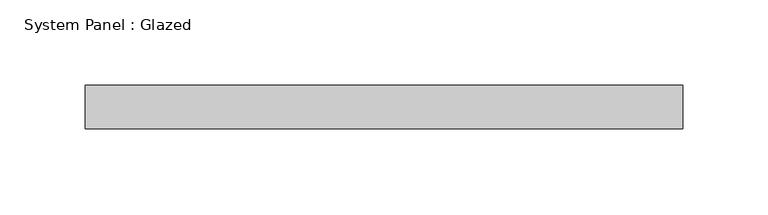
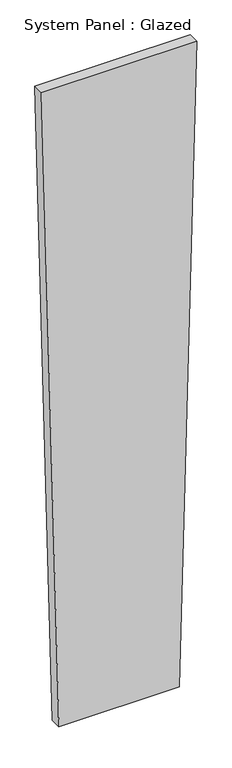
"""IFC4 building model written with IfcOpenShell, lengths in millimetres: plate geometry, System Panel : Glazed."""

from ifc_helpers import new_model, si_unit, frame, origin, place, context, project, spatial, polyline, outline, extrude, source, transform, mapped, element, save


def system_panel_glazed_a686362b(model_context):
    return source(origin(), model_context, "Body", "SweptSolid", [
        extrude(outline(polyline([(0.0, -135.6438304), (0.0, 135.6438304), (1523.4947338, 174.8840644), (1523.4947338, -174.8840644), (0.0, -135.6438304)])), frame((0.0, 19.05, 0.0), z_axis=(0.0, 1.0, 0.0), x_axis=(0.0, 0.0, 1.0)), (0.0, 0.0, 1.0), 25.4),
    ])


if __name__ == "__main__":
    model = new_model("IFC4")
    model_context = context("Model", 3, world=origin())
    ifc_project = project(units=[si_unit("LENGTHUNIT", "METRE", prefix="MILLI")], contexts=[model_context])
    site = spatial("IfcSite", under=ifc_project)
    building = spatial("IfcBuilding", under=site)
    placement = place(None, origin())
    system_panel_glazed_shape = system_panel_glazed_a686362b(model_context)
    element("IfcPlate", 1, ObjectType="System Panel : Glazed", at=placement, inside=building, context=model_context, shape_type="MappedRepresentation", body=[
        mapped(system_panel_glazed_shape, transform((0.0, 0.0, 0.0), x_axis=(1.0, 0.0, 0.0), y_axis=(0.0, 1.0, 0.0), z_axis=(0.0, 0.0, 1.0))),
    ])
    save(model, "model.ifc")
